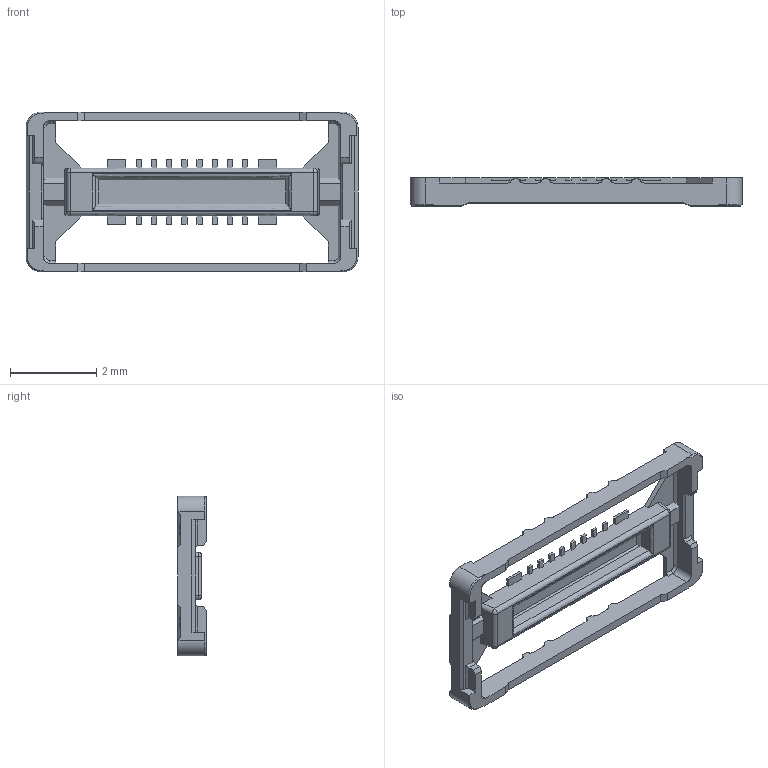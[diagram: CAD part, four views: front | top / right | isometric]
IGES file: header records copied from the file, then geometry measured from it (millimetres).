
Start section: SolidWorks IGES file using analytic representation for surfaces
Global section: file name: C:\3dwork\Watanabe\20240611_NOVASTACK 35-HDP WEB3D\20697-016E-01C NOVASTACK 35-HDP PLUG ASSY IGES R1 ALL.IGS; native system: SolidWorks 2023; preprocessor: SolidWorks 2023; author: E1480; date: 240618.124100; units: millimetre
Bounding box: 7.69 x 0.65 x 3.7 mm (x, y, z)
Surface area: 63.9 mm2 (no closed solid volume)
Topology: 0 solids, 0 shells, 331 faces, 2028 edges, 2024 vertices
Faces by surface type: bspline 259, revolution 72
